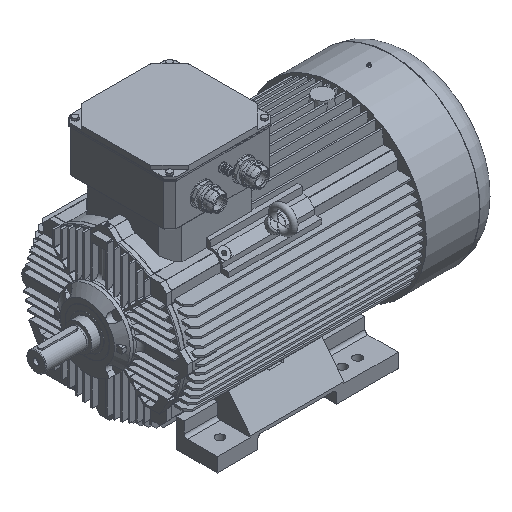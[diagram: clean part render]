
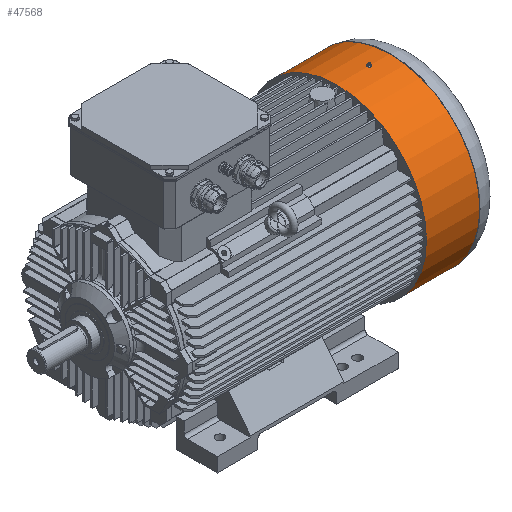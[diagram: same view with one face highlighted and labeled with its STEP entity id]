
A CAD part, isometric view. The second image highlights one B-rep face of the part: STEP entity #47568.
In plain terms, the highlighted cylindrical face has radius 298 mm (diameter 596 mm), a full revolution.
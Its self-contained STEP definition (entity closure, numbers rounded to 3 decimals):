
#7054=CYLINDRICAL_SURFACE('',#50422,298.);
#12995=ORIENTED_EDGE('',*,*,#19158,.F.);
#12996=ORIENTED_EDGE('',*,*,#20841,.F.);
#19158=EDGE_CURVE('',#24075,#24075,#27256,.F.);
#20841=EDGE_CURVE('',#25212,#25212,#27717,.T.);
#24075=VERTEX_POINT('',#65266);
#25212=VERTEX_POINT('',#70769);
#27256=CIRCLE('',#49367,298.);
#27717=CIRCLE('',#50423,298.);
#29686=EDGE_LOOP('',(#12995));
#29687=EDGE_LOOP('',(#12996));
#31863=FACE_BOUND('',#29686,.T.);
#31864=FACE_BOUND('',#29687,.T.);
#47568=ADVANCED_FACE('',(#31863,#31864),#7054,.T.);
#49367=AXIS2_PLACEMENT_3D('',#65265,#54367,#54368);
#50422=AXIS2_PLACEMENT_3D('',#70767,#57444,#57445);
#50423=AXIS2_PLACEMENT_3D('',#70768,#57446,#57447);
#54367=DIRECTION('',(-1.,0.,0.));
#54368=DIRECTION('',(0.,-1.,0.));
#57444=DIRECTION('',(-1.,0.,0.));
#57445=DIRECTION('',(0.,0.,1.));
#57446=DIRECTION('',(-1.,0.,0.));
#57447=DIRECTION('',(0.,0.,1.));
#65265=CARTESIAN_POINT('',(1205.,0.,0.));
#65266=CARTESIAN_POINT('',(1205.,-298.,0.));
#70767=CARTESIAN_POINT('',(1027.12,0.,0.));
#70768=CARTESIAN_POINT('',(1027.12,0.,0.));
#70769=CARTESIAN_POINT('',(1027.12,0.,298.));
